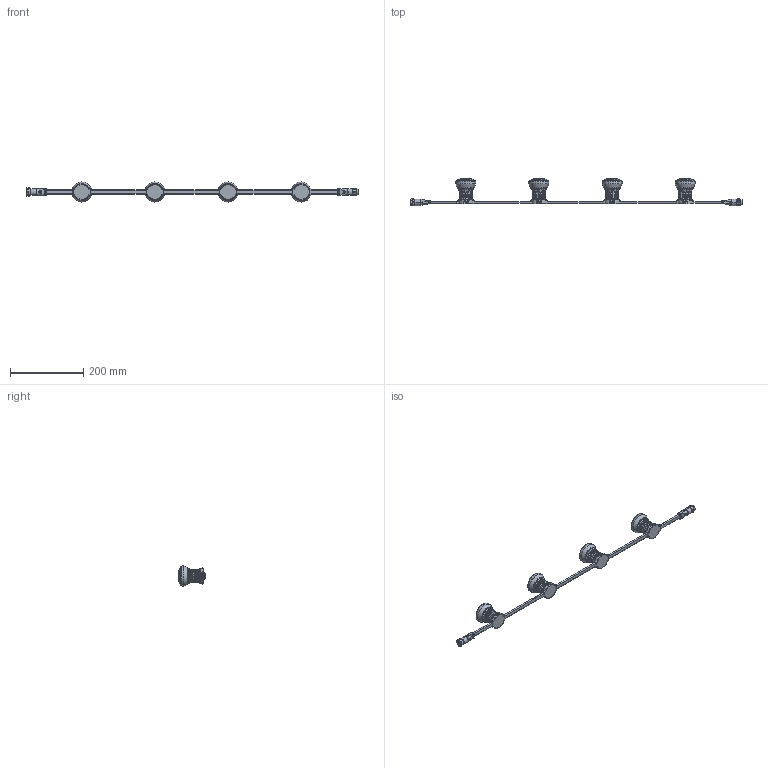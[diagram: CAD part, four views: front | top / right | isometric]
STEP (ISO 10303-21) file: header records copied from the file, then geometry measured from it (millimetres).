
FILE_DESCRIPTION (( 'STEP AP214' ), '1' );
FILE_NAME ('DiGi XT3 & 6 - Turbo.STEP', '2025-11-13T13:05:20', ( '' ), ( '' ), 'SwSTEP 2.0', 'SolidWorks 2025', '' );
FILE_SCHEMA (( 'AUTOMOTIVE_DESIGN' ));
Length unit declared in the file: millimetre
Products named in the file (6): DiGi Module XT3 & 6 - Cover - Turbo; M16 5p Flat mold - Male; M16 5p Flat mold - Female; DiGi Module XT3 & 6 - Body_XT3 RGBW; DiGi XT3 & 6 - Turbo; Part9^DiGi XT3 & 6
Assembly tree (11 placements, depth 2):
  DiGi XT3 & 6 - Turbo
    DiGi Module XT3 & 6 - Body_XT3 RGBW  x4
    Part9^DiGi XT3 & 6
    M16 5p Flat mold - Female
    M16 5p Flat mold - Male
    DiGi Module XT3 & 6 - Cover - Turbo  x4
Bounding box: 907.71 x 75.72 x 54.91 mm (x, y, z)
Volume: 429254.5 mm3; surface area: 95958.1 mm2
Topology: 31 solids, 31 shells, 5231 faces, 12826 edges, 7620 vertices
Faces by surface type: bspline 3472, plane 685, cylinder 649, cone 208, torus 139, sphere 78
Full cylindrical faces by diameter (mm): 9.2 x1, 11.1 x1, 11.8 x1, 14.25 x1, 14.8 x1, 15.2 x1, 31.6 x8, 42 x4
Entity records: 135417 total; most frequent: CARTESIAN_POINT 83287, ORIENTED_EDGE 9424, DIRECTION 5076, EDGE_CURVE 4712, VERTEX_POINT 2847, B_SPLINE_CURVE_WITH_KNOTS 2244, EDGE_LOOP 2079, FACE_OUTER_BOUND 1996
